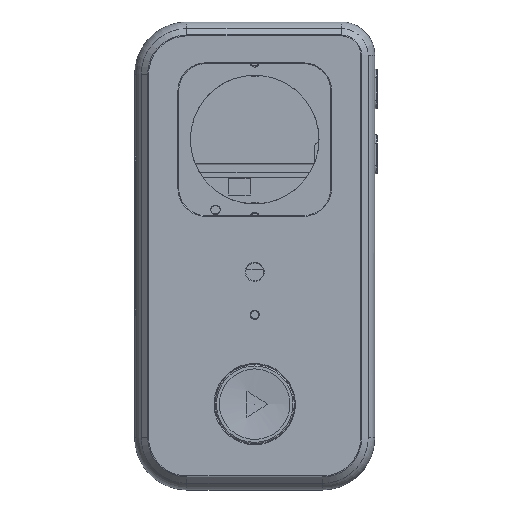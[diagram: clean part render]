
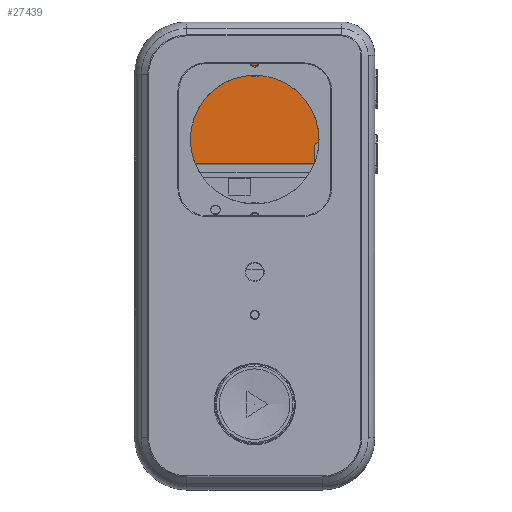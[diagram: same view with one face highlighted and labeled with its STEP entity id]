
A CAD part, top view. The second image highlights one B-rep face of the part: STEP entity #27439.
In plain terms, the highlighted planar face has unit normal (0, 0, 1).
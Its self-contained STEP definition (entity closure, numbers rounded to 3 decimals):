
#21531 = CYLINDRICAL_SURFACE('',#21532,0.3);
#21532 = AXIS2_PLACEMENT_3D('',#21533,#21534,#21535);
#21533 = CARTESIAN_POINT('',(7.5,128.75,2.1));
#21534 = DIRECTION('',(0.,-1.,0.));
#21535 = DIRECTION('',(-1.,0.,0.));
#21565 = TOROIDAL_SURFACE('',#21566,2.7,0.3);
#21566 = AXIS2_PLACEMENT_3D('',#21567,#21568,#21569);
#21567 = CARTESIAN_POINT('',(10.2,128.75,2.1));
#21568 = DIRECTION('',(0.,0.,1.));
#21569 = DIRECTION('',(0.,1.,0.));
#21640 = TOROIDAL_SURFACE('',#21641,2.7,0.3);
#21641 = AXIS2_PLACEMENT_3D('',#21642,#21643,#21644);
#21642 = CARTESIAN_POINT('',(10.2,101.75,2.1));
#21643 = DIRECTION('',(0.,0.,1.));
#21644 = DIRECTION('',(-1.,0.,0.));
#21695 = CYLINDRICAL_SURFACE('',#21696,0.3);
#21696 = AXIS2_PLACEMENT_3D('',#21697,#21698,#21699);
#21697 = CARTESIAN_POINT('',(60.2,131.45,2.1));
#21698 = DIRECTION('',(-1.,0.,0.));
#21699 = DIRECTION('',(0.,1.,0.));
#21749 = CYLINDRICAL_SURFACE('',#21750,0.3);
#21750 = AXIS2_PLACEMENT_3D('',#21751,#21752,#21753);
#21751 = CARTESIAN_POINT('',(10.2,99.05,2.1));
#21752 = DIRECTION('',(1.,0.,0.));
#21753 = DIRECTION('',(0.,-1.,0.));
#21783 = TOROIDAL_SURFACE('',#21784,2.7,0.3);
#21784 = AXIS2_PLACEMENT_3D('',#21785,#21786,#21787);
#21785 = CARTESIAN_POINT('',(60.2,128.75,2.1));
#21786 = DIRECTION('',(0.,0.,1.));
#21787 = DIRECTION('',(1.,0.,-0.));
#21856 = TOROIDAL_SURFACE('',#21857,2.7,0.3);
#21857 = AXIS2_PLACEMENT_3D('',#21858,#21859,#21860);
#21858 = CARTESIAN_POINT('',(60.2,101.75,2.1));
#21859 = DIRECTION('',(0.,0.,1.));
#21860 = DIRECTION('',(0.,-1.,0.));
#21889 = CYLINDRICAL_SURFACE('',#21890,0.3);
#21890 = AXIS2_PLACEMENT_3D('',#21891,#21892,#21893);
#21891 = CARTESIAN_POINT('',(62.9,101.75,2.1));
#21892 = DIRECTION('',(0.,1.,0.));
#21893 = DIRECTION('',(1.,0.,0.));
#25773 = VERTEX_POINT('',#25774);
#25774 = CARTESIAN_POINT('',(7.5,101.75,2.4));
#25794 = EDGE_CURVE('',#25795,#25773,#25797,.T.);
#25795 = VERTEX_POINT('',#25796);
#25796 = CARTESIAN_POINT('',(7.5,128.75,2.4));
#25797 = SURFACE_CURVE('',#25798,(#25802,#25809),.PCURVE_S1.);
#25798 = LINE('',#25799,#25800);
#25799 = CARTESIAN_POINT('',(7.5,128.75,2.4));
#25800 = VECTOR('',#25801,1.);
#25801 = DIRECTION('',(0.,-1.,0.));
#25802 = PCURVE('',#21531,#25803);
#25803 = DEFINITIONAL_REPRESENTATION('',(#25804),#25808);
#25804 = LINE('',#25805,#25806);
#25805 = CARTESIAN_POINT('',(4.712,0.));
#25806 = VECTOR('',#25807,1.);
#25807 = DIRECTION('',(-0.,1.));
#25808 = ( GEOMETRIC_REPRESENTATION_CONTEXT(2) 
PARAMETRIC_REPRESENTATION_CONTEXT() REPRESENTATION_CONTEXT('2D SPACE',''
  ) );
#25809 = PCURVE('',#25810,#25815);
#25810 = PLANE('',#25811);
#25811 = AXIS2_PLACEMENT_3D('',#25812,#25813,#25814);
#25812 = CARTESIAN_POINT('',(35.2,115.25,2.4));
#25813 = DIRECTION('',(0.,0.,1.));
#25814 = DIRECTION('',(1.,0.,-0.));
#25815 = DEFINITIONAL_REPRESENTATION('',(#25816),#25820);
#25816 = LINE('',#25817,#25818);
#25817 = CARTESIAN_POINT('',(-27.7,13.5));
#25818 = VECTOR('',#25819,1.);
#25819 = DIRECTION('',(0.,-1.));
#25820 = ( GEOMETRIC_REPRESENTATION_CONTEXT(2) 
PARAMETRIC_REPRESENTATION_CONTEXT() REPRESENTATION_CONTEXT('2D SPACE',''
  ) );
#25846 = VERTEX_POINT('',#25847);
#25847 = CARTESIAN_POINT('',(10.2,131.45,2.4));
#25869 = EDGE_CURVE('',#25846,#25795,#25870,.T.);
#25870 = SURFACE_CURVE('',#25871,(#25876,#25883),.PCURVE_S1.);
#25871 = CIRCLE('',#25872,2.7);
#25872 = AXIS2_PLACEMENT_3D('',#25873,#25874,#25875);
#25873 = CARTESIAN_POINT('',(10.2,128.75,2.4));
#25874 = DIRECTION('',(0.,-0.,1.));
#25875 = DIRECTION('',(0.,1.,0.));
#25876 = PCURVE('',#21565,#25877);
#25877 = DEFINITIONAL_REPRESENTATION('',(#25878),#25882);
#25878 = LINE('',#25879,#25880);
#25879 = CARTESIAN_POINT('',(0.,1.571));
#25880 = VECTOR('',#25881,1.);
#25881 = DIRECTION('',(1.,0.));
#25882 = ( GEOMETRIC_REPRESENTATION_CONTEXT(2) 
PARAMETRIC_REPRESENTATION_CONTEXT() REPRESENTATION_CONTEXT('2D SPACE',''
  ) );
#25883 = PCURVE('',#25810,#25884);
#25884 = DEFINITIONAL_REPRESENTATION('',(#25885),#25889);
#25885 = CIRCLE('',#25886,2.7);
#25886 = AXIS2_PLACEMENT_2D('',#25887,#25888);
#25887 = CARTESIAN_POINT('',(-25.,13.5));
#25888 = DIRECTION('',(0.,1.));
#25889 = ( GEOMETRIC_REPRESENTATION_CONTEXT(2) 
PARAMETRIC_REPRESENTATION_CONTEXT() REPRESENTATION_CONTEXT('2D SPACE',''
  ) );
#25897 = VERTEX_POINT('',#25898);
#25898 = CARTESIAN_POINT('',(10.2,99.05,2.4));
#25918 = EDGE_CURVE('',#25773,#25897,#25919,.T.);
#25919 = SURFACE_CURVE('',#25920,(#25925,#25932),.PCURVE_S1.);
#25920 = CIRCLE('',#25921,2.7);
#25921 = AXIS2_PLACEMENT_3D('',#25922,#25923,#25924);
#25922 = CARTESIAN_POINT('',(10.2,101.75,2.4));
#25923 = DIRECTION('',(0.,0.,1.));
#25924 = DIRECTION('',(-1.,0.,0.));
#25925 = PCURVE('',#21640,#25926);
#25926 = DEFINITIONAL_REPRESENTATION('',(#25927),#25931);
#25927 = LINE('',#25928,#25929);
#25928 = CARTESIAN_POINT('',(0.,1.571));
#25929 = VECTOR('',#25930,1.);
#25930 = DIRECTION('',(1.,0.));
#25931 = ( GEOMETRIC_REPRESENTATION_CONTEXT(2) 
PARAMETRIC_REPRESENTATION_CONTEXT() REPRESENTATION_CONTEXT('2D SPACE',''
  ) );
#25932 = PCURVE('',#25810,#25933);
#25933 = DEFINITIONAL_REPRESENTATION('',(#25934),#25938);
#25934 = CIRCLE('',#25935,2.7);
#25935 = AXIS2_PLACEMENT_2D('',#25936,#25937);
#25936 = CARTESIAN_POINT('',(-25.,-13.5));
#25937 = DIRECTION('',(-1.,0.));
#25938 = ( GEOMETRIC_REPRESENTATION_CONTEXT(2) 
PARAMETRIC_REPRESENTATION_CONTEXT() REPRESENTATION_CONTEXT('2D SPACE',''
  ) );
#25945 = EDGE_CURVE('',#25946,#25846,#25948,.T.);
#25946 = VERTEX_POINT('',#25947);
#25947 = CARTESIAN_POINT('',(60.2,131.45,2.4));
#25948 = SURFACE_CURVE('',#25949,(#25953,#25960),.PCURVE_S1.);
#25949 = LINE('',#25950,#25951);
#25950 = CARTESIAN_POINT('',(60.2,131.45,2.4));
#25951 = VECTOR('',#25952,1.);
#25952 = DIRECTION('',(-1.,0.,0.));
#25953 = PCURVE('',#21695,#25954);
#25954 = DEFINITIONAL_REPRESENTATION('',(#25955),#25959);
#25955 = LINE('',#25956,#25957);
#25956 = CARTESIAN_POINT('',(4.712,0.));
#25957 = VECTOR('',#25958,1.);
#25958 = DIRECTION('',(-0.,1.));
#25959 = ( GEOMETRIC_REPRESENTATION_CONTEXT(2) 
PARAMETRIC_REPRESENTATION_CONTEXT() REPRESENTATION_CONTEXT('2D SPACE',''
  ) );
#25960 = PCURVE('',#25810,#25961);
#25961 = DEFINITIONAL_REPRESENTATION('',(#25962),#25966);
#25962 = LINE('',#25963,#25964);
#25963 = CARTESIAN_POINT('',(25.,16.2));
#25964 = VECTOR('',#25965,1.);
#25965 = DIRECTION('',(-1.,0.));
#25966 = ( GEOMETRIC_REPRESENTATION_CONTEXT(2) 
PARAMETRIC_REPRESENTATION_CONTEXT() REPRESENTATION_CONTEXT('2D SPACE',''
  ) );
#25993 = VERTEX_POINT('',#25994);
#25994 = CARTESIAN_POINT('',(60.2,99.05,2.4));
#26014 = EDGE_CURVE('',#25897,#25993,#26015,.T.);
#26015 = SURFACE_CURVE('',#26016,(#26020,#26027),.PCURVE_S1.);
#26016 = LINE('',#26017,#26018);
#26017 = CARTESIAN_POINT('',(10.2,99.05,2.4));
#26018 = VECTOR('',#26019,1.);
#26019 = DIRECTION('',(1.,0.,0.));
#26020 = PCURVE('',#21749,#26021);
#26021 = DEFINITIONAL_REPRESENTATION('',(#26022),#26026);
#26022 = LINE('',#26023,#26024);
#26023 = CARTESIAN_POINT('',(4.712,0.));
#26024 = VECTOR('',#26025,1.);
#26025 = DIRECTION('',(-0.,1.));
#26026 = ( GEOMETRIC_REPRESENTATION_CONTEXT(2) 
PARAMETRIC_REPRESENTATION_CONTEXT() REPRESENTATION_CONTEXT('2D SPACE',''
  ) );
#26027 = PCURVE('',#25810,#26028);
#26028 = DEFINITIONAL_REPRESENTATION('',(#26029),#26033);
#26029 = LINE('',#26030,#26031);
#26030 = CARTESIAN_POINT('',(-25.,-16.2));
#26031 = VECTOR('',#26032,1.);
#26032 = DIRECTION('',(1.,0.));
#26033 = ( GEOMETRIC_REPRESENTATION_CONTEXT(2) 
PARAMETRIC_REPRESENTATION_CONTEXT() REPRESENTATION_CONTEXT('2D SPACE',''
  ) );
#26040 = VERTEX_POINT('',#26041);
#26041 = CARTESIAN_POINT('',(62.9,128.75,2.4));
#26063 = EDGE_CURVE('',#26040,#25946,#26064,.T.);
#26064 = SURFACE_CURVE('',#26065,(#26070,#26077),.PCURVE_S1.);
#26065 = CIRCLE('',#26066,2.7);
#26066 = AXIS2_PLACEMENT_3D('',#26067,#26068,#26069);
#26067 = CARTESIAN_POINT('',(60.2,128.75,2.4));
#26068 = DIRECTION('',(0.,0.,1.));
#26069 = DIRECTION('',(1.,0.,-0.));
#26070 = PCURVE('',#21783,#26071);
#26071 = DEFINITIONAL_REPRESENTATION('',(#26072),#26076);
#26072 = LINE('',#26073,#26074);
#26073 = CARTESIAN_POINT('',(0.,1.571));
#26074 = VECTOR('',#26075,1.);
#26075 = DIRECTION('',(1.,0.));
#26076 = ( GEOMETRIC_REPRESENTATION_CONTEXT(2) 
PARAMETRIC_REPRESENTATION_CONTEXT() REPRESENTATION_CONTEXT('2D SPACE',''
  ) );
#26077 = PCURVE('',#25810,#26078);
#26078 = DEFINITIONAL_REPRESENTATION('',(#26079),#26083);
#26079 = CIRCLE('',#26080,2.7);
#26080 = AXIS2_PLACEMENT_2D('',#26081,#26082);
#26081 = CARTESIAN_POINT('',(25.,13.5));
#26082 = DIRECTION('',(1.,0.));
#26083 = ( GEOMETRIC_REPRESENTATION_CONTEXT(2) 
PARAMETRIC_REPRESENTATION_CONTEXT() REPRESENTATION_CONTEXT('2D SPACE',''
  ) );
#26091 = VERTEX_POINT('',#26092);
#26092 = CARTESIAN_POINT('',(62.9,101.75,2.4));
#26112 = EDGE_CURVE('',#25993,#26091,#26113,.T.);
#26113 = SURFACE_CURVE('',#26114,(#26119,#26126),.PCURVE_S1.);
#26114 = CIRCLE('',#26115,2.7);
#26115 = AXIS2_PLACEMENT_3D('',#26116,#26117,#26118);
#26116 = CARTESIAN_POINT('',(60.2,101.75,2.4));
#26117 = DIRECTION('',(-0.,0.,1.));
#26118 = DIRECTION('',(0.,-1.,0.));
#26119 = PCURVE('',#21856,#26120);
#26120 = DEFINITIONAL_REPRESENTATION('',(#26121),#26125);
#26121 = LINE('',#26122,#26123);
#26122 = CARTESIAN_POINT('',(0.,1.571));
#26123 = VECTOR('',#26124,1.);
#26124 = DIRECTION('',(1.,0.));
#26125 = ( GEOMETRIC_REPRESENTATION_CONTEXT(2) 
PARAMETRIC_REPRESENTATION_CONTEXT() REPRESENTATION_CONTEXT('2D SPACE',''
  ) );
#26126 = PCURVE('',#25810,#26127);
#26127 = DEFINITIONAL_REPRESENTATION('',(#26128),#26132);
#26128 = CIRCLE('',#26129,2.7);
#26129 = AXIS2_PLACEMENT_2D('',#26130,#26131);
#26130 = CARTESIAN_POINT('',(25.,-13.5));
#26131 = DIRECTION('',(0.,-1.));
#26132 = ( GEOMETRIC_REPRESENTATION_CONTEXT(2) 
PARAMETRIC_REPRESENTATION_CONTEXT() REPRESENTATION_CONTEXT('2D SPACE',''
  ) );
#26139 = EDGE_CURVE('',#26091,#26040,#26140,.T.);
#26140 = SURFACE_CURVE('',#26141,(#26145,#26152),.PCURVE_S1.);
#26141 = LINE('',#26142,#26143);
#26142 = CARTESIAN_POINT('',(62.9,101.75,2.4));
#26143 = VECTOR('',#26144,1.);
#26144 = DIRECTION('',(0.,1.,0.));
#26145 = PCURVE('',#21889,#26146);
#26146 = DEFINITIONAL_REPRESENTATION('',(#26147),#26151);
#26147 = LINE('',#26148,#26149);
#26148 = CARTESIAN_POINT('',(4.712,0.));
#26149 = VECTOR('',#26150,1.);
#26150 = DIRECTION('',(-0.,1.));
#26151 = ( GEOMETRIC_REPRESENTATION_CONTEXT(2) 
PARAMETRIC_REPRESENTATION_CONTEXT() REPRESENTATION_CONTEXT('2D SPACE',''
  ) );
#26152 = PCURVE('',#25810,#26153);
#26153 = DEFINITIONAL_REPRESENTATION('',(#26154),#26158);
#26154 = LINE('',#26155,#26156);
#26155 = CARTESIAN_POINT('',(27.7,-13.5));
#26156 = VECTOR('',#26157,1.);
#26157 = DIRECTION('',(0.,1.));
#26158 = ( GEOMETRIC_REPRESENTATION_CONTEXT(2) 
PARAMETRIC_REPRESENTATION_CONTEXT() REPRESENTATION_CONTEXT('2D SPACE',''
  ) );
#27439 = ADVANCED_FACE('',(#27440),#25810,.T.);
#27440 = FACE_BOUND('',#27441,.T.);
#27441 = EDGE_LOOP('',(#27442,#27443,#27444,#27445,#27446,#27447,#27448,
    #27449));
#27442 = ORIENTED_EDGE('',*,*,#25918,.T.);
#27443 = ORIENTED_EDGE('',*,*,#26014,.T.);
#27444 = ORIENTED_EDGE('',*,*,#26112,.T.);
#27445 = ORIENTED_EDGE('',*,*,#26139,.T.);
#27446 = ORIENTED_EDGE('',*,*,#26063,.T.);
#27447 = ORIENTED_EDGE('',*,*,#25945,.T.);
#27448 = ORIENTED_EDGE('',*,*,#25869,.T.);
#27449 = ORIENTED_EDGE('',*,*,#25794,.T.);
